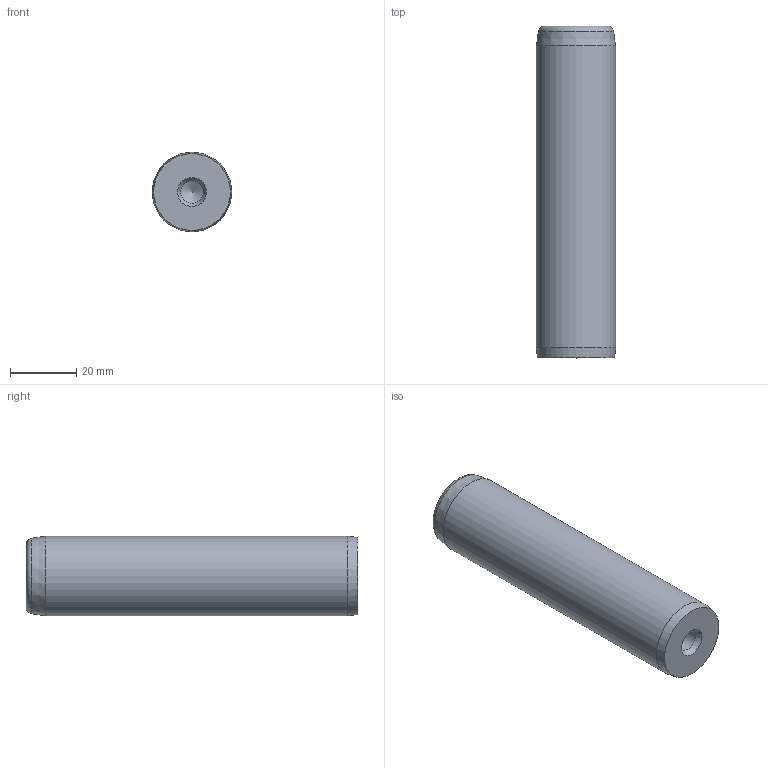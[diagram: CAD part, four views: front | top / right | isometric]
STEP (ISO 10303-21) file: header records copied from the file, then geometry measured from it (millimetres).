
FILE_DESCRIPTION( ( 'STEP AP203' ), '1' );
FILE_NAME( 'D:/Cuma/D14/D14_24100.step', '2003-01-18T23:32:50', ( ' ' ), ( ' ' ), 'XStep 1.0', ' ', ' ' );
FILE_SCHEMA( ( 'CONFIG_CONTROL_DESIGN' ) );
Length unit declared in the file: metre
Products named in the file (1): 1
Bounding box: 24 x 100 x 24 mm (x, y, z)
Volume: 42998.2 mm3; surface area: 9393.7 mm2
Topology: 1 solids, 1 shells, 14 faces, 29 edges, 17 vertices
Faces by surface type: cone 6, cylinder 5, plane 2, torus 1
Full cylindrical faces by diameter (mm): 6.75 x4, 24 x1
Entity records: 327 total; most frequent: DIRECTION 56, CARTESIAN_POINT 43, AXIS2_PLACEMENT_3D 28, EDGE_LOOP 26, ORIENTED_EDGE 26, FACE_OUTER_BOUND 20, VERTEX_POINT 15, ADVANCED_FACE 14
